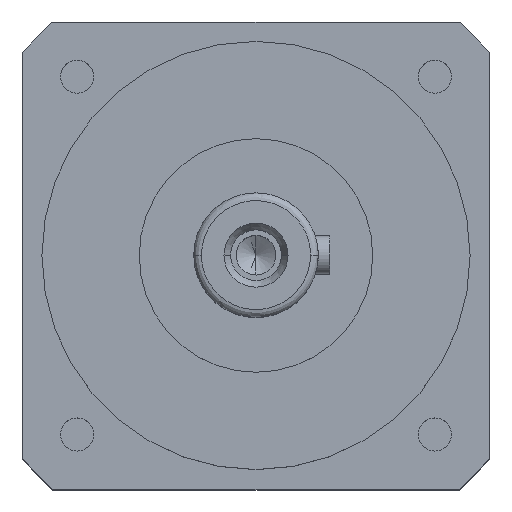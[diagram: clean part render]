
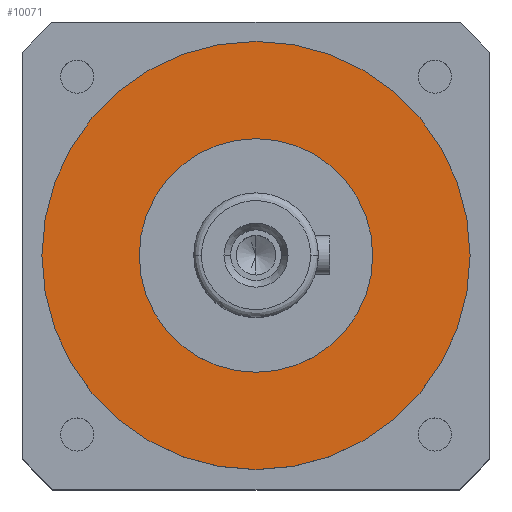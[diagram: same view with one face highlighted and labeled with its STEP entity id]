
A CAD part, top view. The second image highlights one B-rep face of the part: STEP entity #10071.
In plain terms, the highlighted planar face has unit normal (0, 0, 1).
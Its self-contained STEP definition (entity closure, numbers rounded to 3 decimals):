
#1059 = CARTESIAN_POINT ( 'NONE',  ( -55., 0., -52. ) ) ;
#1317 = CARTESIAN_POINT ( 'NONE',  ( 0., 0., -52. ) ) ;
#1376 = FACE_OUTER_BOUND ( 'NONE', #14940, .T. ) ;
#2672 = VERTEX_POINT ( 'NONE', #6182 ) ;
#3271 = CARTESIAN_POINT ( 'NONE',  ( 0., 0., -52. ) ) ;
#3761 = DIRECTION ( 'NONE',  ( 0., 0., -1. ) ) ;
#4340 = AXIS2_PLACEMENT_3D ( 'NONE', #11447, #3761, #8262 ) ;
#4693 = EDGE_CURVE ( 'NONE', #2672, #11738, #19124, .T. ) ;
#5940 = DIRECTION ( 'NONE',  ( 0., 0., 1. ) ) ;
#6130 = PLANE ( 'NONE',  #11699 ) ;
#6182 = CARTESIAN_POINT ( 'NONE',  ( -30., 0., -52. ) ) ;
#6936 = ORIENTED_EDGE ( 'NONE', *, *, #18294, .F. ) ;
#7285 = AXIS2_PLACEMENT_3D ( 'NONE', #7288, #16641, #7412 ) ;
#7288 = CARTESIAN_POINT ( 'NONE',  ( 0., 0., -52. ) ) ;
#7412 = DIRECTION ( 'NONE',  ( 1., 0., 0. ) ) ;
#7946 = EDGE_LOOP ( 'NONE', ( #11418, #14595 ) ) ;
#8262 = DIRECTION ( 'NONE',  ( 1., 0., 0. ) ) ;
#8859 = CIRCLE ( 'NONE', #7285, 30. ) ;
#9042 = VERTEX_POINT ( 'NONE', #1059 ) ;
#9217 = CARTESIAN_POINT ( 'NONE',  ( 30., 0., -52. ) ) ;
#10071 = ADVANCED_FACE ( 'NONE', ( #1376, #12491 ), #6130, .F. ) ;
#10754 = DIRECTION ( 'NONE',  ( -1., 0., 0. ) ) ;
#10822 = CARTESIAN_POINT ( 'NONE',  ( 0., 30., -52. ) ) ;
#10923 = DIRECTION ( 'NONE',  ( 0., 0., -1. ) ) ;
#11104 = AXIS2_PLACEMENT_3D ( 'NONE', #3271, #10923, #13662 ) ;
#11418 = ORIENTED_EDGE ( 'NONE', *, *, #19393, .F. ) ;
#11447 = CARTESIAN_POINT ( 'NONE',  ( 0., 0., -52. ) ) ;
#11496 = CIRCLE ( 'NONE', #11104, 55. ) ;
#11699 = AXIS2_PLACEMENT_3D ( 'NONE', #10822, #16779, #10754 ) ;
#11738 = VERTEX_POINT ( 'NONE', #9217 ) ;
#12491 = FACE_BOUND ( 'NONE', #7946, .T. ) ;
#13021 = VERTEX_POINT ( 'NONE', #19256 ) ;
#13662 = DIRECTION ( 'NONE',  ( 1., 0., 0. ) ) ;
#13728 = EDGE_CURVE ( 'NONE', #9042, #13021, #11496, .T. ) ;
#14595 = ORIENTED_EDGE ( 'NONE', *, *, #4693, .F. ) ;
#14940 = EDGE_LOOP ( 'NONE', ( #6936, #15078 ) ) ;
#15078 = ORIENTED_EDGE ( 'NONE', *, *, #13728, .F. ) ;
#16402 = AXIS2_PLACEMENT_3D ( 'NONE', #1317, #5940, #19147 ) ;
#16641 = DIRECTION ( 'NONE',  ( 0., 0., 1. ) ) ;
#16779 = DIRECTION ( 'NONE',  ( 0., 0., -1. ) ) ;
#18294 = EDGE_CURVE ( 'NONE', #13021, #9042, #18579, .T. ) ;
#18579 = CIRCLE ( 'NONE', #4340, 55. ) ;
#19124 = CIRCLE ( 'NONE', #16402, 30. ) ;
#19147 = DIRECTION ( 'NONE',  ( 1., 0., 0. ) ) ;
#19256 = CARTESIAN_POINT ( 'NONE',  ( 55., 0., -52. ) ) ;
#19393 = EDGE_CURVE ( 'NONE', #11738, #2672, #8859, .T. ) ;
